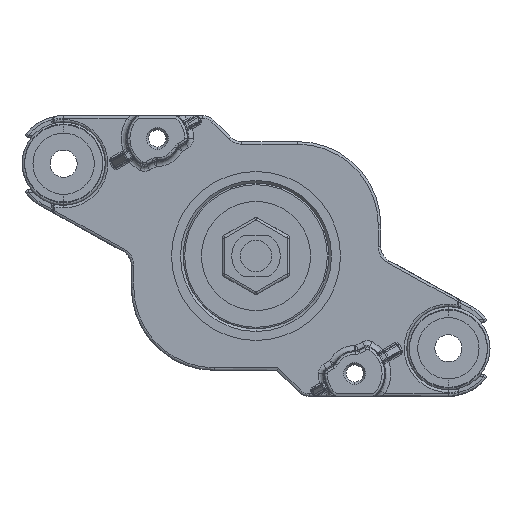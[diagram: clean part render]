
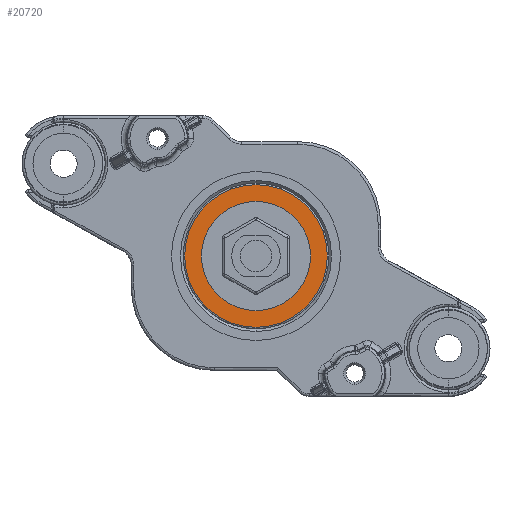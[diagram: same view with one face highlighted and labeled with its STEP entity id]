
A CAD part, front view. The second image highlights one B-rep face of the part: STEP entity #20720.
In plain terms, the highlighted planar face has unit normal (0, -1, 0).
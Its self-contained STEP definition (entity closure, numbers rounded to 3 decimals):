
#1059 = ORIENTED_EDGE ( 'NONE', *, *, #16493, .F. ) ;
#1340 = EDGE_CURVE ( 'NONE', #6524, #18855, #39422, .T. ) ;
#2906 = DIRECTION ( 'NONE',  ( 0., 0., -1. ) ) ;
#3840 = CARTESIAN_POINT ( 'NONE',  ( 0., 0., 0. ) ) ;
#5182 = CIRCLE ( 'NONE', #35216, 13.715 ) ;
#5444 = DIRECTION ( 'NONE',  ( 0., 1., 0. ) ) ;
#6524 = VERTEX_POINT ( 'NONE', #8322 ) ;
#6917 = DIRECTION ( 'NONE',  ( 0., 0., 1. ) ) ;
#7528 = CARTESIAN_POINT ( 'NONE',  ( 0., 0., -13.715 ) ) ;
#7712 = CARTESIAN_POINT ( 'NONE',  ( 0., 0., 0. ) ) ;
#8322 = CARTESIAN_POINT ( 'NONE',  ( 0., 0., 10.5 ) ) ;
#9566 = EDGE_CURVE ( 'NONE', #21245, #10003, #10968, .T. ) ;
#9873 = ORIENTED_EDGE ( 'NONE', *, *, #9566, .T. ) ;
#10003 = VERTEX_POINT ( 'NONE', #7528 ) ;
#10733 = DIRECTION ( 'NONE',  ( 0., 0., 1. ) ) ;
#10968 = CIRCLE ( 'NONE', #22631, 13.715 ) ;
#13911 = EDGE_LOOP ( 'NONE', ( #1059, #25972 ) ) ;
#14164 = AXIS2_PLACEMENT_3D ( 'NONE', #23519, #5444, #26673 ) ;
#14363 = AXIS2_PLACEMENT_3D ( 'NONE', #33376, #15196, #36429 ) ;
#15196 = DIRECTION ( 'NONE',  ( 0., -1., 0. ) ) ;
#15310 = AXIS2_PLACEMENT_3D ( 'NONE', #39313, #21128, #2906 ) ;
#16493 = EDGE_CURVE ( 'NONE', #18855, #6524, #33835, .T. ) ;
#17371 = FACE_BOUND ( 'NONE', #13911, .T. ) ;
#18855 = VERTEX_POINT ( 'NONE', #35997 ) ;
#20720 = ADVANCED_FACE ( 'NONE', ( #32555, #17371 ), #38770, .F. ) ;
#21128 = DIRECTION ( 'NONE',  ( 0., -1., 0. ) ) ;
#21245 = VERTEX_POINT ( 'NONE', #30743 ) ;
#22631 = AXIS2_PLACEMENT_3D ( 'NONE', #7712, #28919, #10733 ) ;
#23519 = CARTESIAN_POINT ( 'NONE',  ( -37., 0., 17.75 ) ) ;
#25097 = DIRECTION ( 'NONE',  ( 0., -1., 0. ) ) ;
#25972 = ORIENTED_EDGE ( 'NONE', *, *, #1340, .F. ) ;
#26131 = ORIENTED_EDGE ( 'NONE', *, *, #36848, .T. ) ;
#26673 = DIRECTION ( 'NONE',  ( 0., 0., 1. ) ) ;
#27339 = EDGE_LOOP ( 'NONE', ( #9873, #26131 ) ) ;
#28919 = DIRECTION ( 'NONE',  ( 0., -1., 0. ) ) ;
#30743 = CARTESIAN_POINT ( 'NONE',  ( 0., 0., 13.715 ) ) ;
#32555 = FACE_OUTER_BOUND ( 'NONE', #27339, .T. ) ;
#33376 = CARTESIAN_POINT ( 'NONE',  ( 0., 0., 0. ) ) ;
#33835 = CIRCLE ( 'NONE', #15310, 10.5 ) ;
#35216 = AXIS2_PLACEMENT_3D ( 'NONE', #3840, #25097, #6917 ) ;
#35997 = CARTESIAN_POINT ( 'NONE',  ( 0., 0., -10.5 ) ) ;
#36429 = DIRECTION ( 'NONE',  ( 0., 0., -1. ) ) ;
#36848 = EDGE_CURVE ( 'NONE', #10003, #21245, #5182, .T. ) ;
#38770 = PLANE ( 'NONE',  #14164 ) ;
#39313 = CARTESIAN_POINT ( 'NONE',  ( 0., 0., 0. ) ) ;
#39422 = CIRCLE ( 'NONE', #14363, 10.5 ) ;
